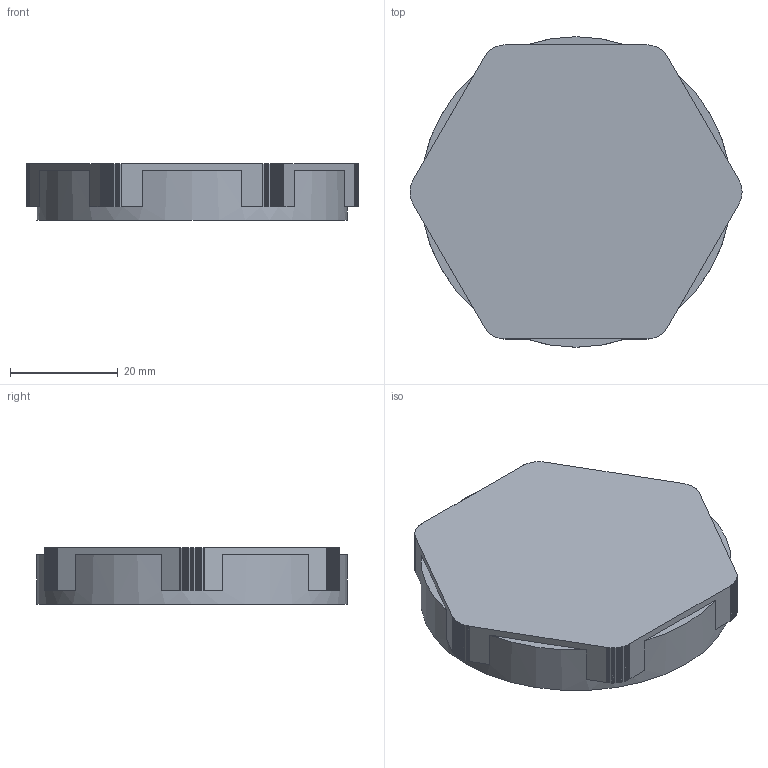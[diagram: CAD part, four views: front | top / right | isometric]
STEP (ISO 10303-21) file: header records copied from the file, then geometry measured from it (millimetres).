
FILE_DESCRIPTION(('Open CASCADE Model'),'2;1');
FILE_NAME('Open CASCADE Shape Model','2026-11-03T18:39:04',('Author'),( 'Open CASCADE'),'Open CASCADE STEP processor 7.9','Open CASCADE 7.9' ,'Unknown');
FILE_SCHEMA(('AUTOMOTIVE_DESIGN { 1 0 10303 214 1 1 1 1 }'));
Length unit declared in the file: millimetre
Products named in the file (1): Open CASCADE STEP translator 7.9 8
Bounding box: 61.6 x 57.6 x 10.5 mm (x, y, z)
Volume: 8705.9 mm3; surface area: 8869.5 mm2
Topology: 1 solids, 1 shells, 155 faces, 447 edges, 298 vertices
Faces by surface type: plane 150, cylinder 5
Full cylindrical faces by diameter (mm): 5.2 x1, 7 x1, 50 x1, 51.95 x1, 57.6 x1
Entity records: 10794 total; most frequent: CARTESIAN_POINT 1843, DIRECTION 1637, LINE 1261, VECTOR 1261, ORIENTED_EDGE 894, PCURVE 894, DEFINITIONAL_REPRESENTATION 894, EDGE_CURVE 447
